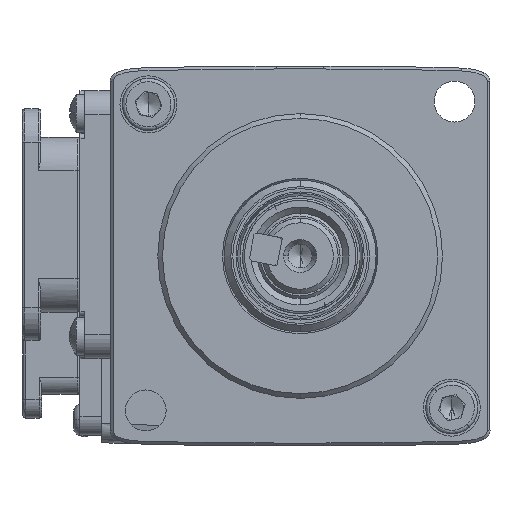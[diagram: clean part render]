
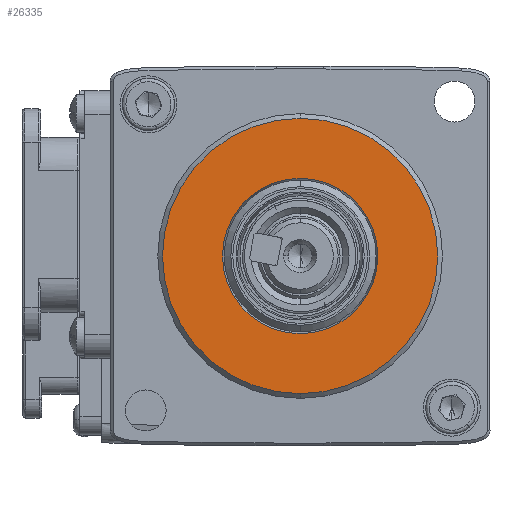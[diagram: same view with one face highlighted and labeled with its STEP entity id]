
A CAD part, left-side view. The second image highlights one B-rep face of the part: STEP entity #26335.
In plain terms, the highlighted planar face has unit normal (-1, 0, 0).
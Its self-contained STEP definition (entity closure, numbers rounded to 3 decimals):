
#1779 = DIRECTION ( 'NONE',  ( 0., 0., -1. ) ) ;
#3005 = VERTEX_POINT ( 'NONE', #60502 ) ;
#3705 = PLANE ( 'NONE',  #38028 ) ;
#4965 = EDGE_LOOP ( 'NONE', ( #18900, #72861 ) ) ;
#9912 = CIRCLE ( 'NONE', #64389, 8.182 ) ;
#10740 = CARTESIAN_POINT ( 'NONE',  ( -75.521, -7.385, 154.516 ) ) ;
#11916 = VERTEX_POINT ( 'NONE', #10740 ) ;
#15435 = EDGE_CURVE ( 'NONE', #36326, #11916, #36439, .T. ) ;
#18347 = EDGE_CURVE ( 'NONE', #11916, #36326, #77124, .T. ) ;
#18900 = ORIENTED_EDGE ( 'NONE', *, *, #39669, .F. ) ;
#21014 = CIRCLE ( 'NONE', #50598, 8.182 ) ;
#21936 = DIRECTION ( 'NONE',  ( 1., 0., 0. ) ) ;
#26335 = ADVANCED_FACE ( 'NONE', ( #38807, #77363 ), #3705, .F. ) ;
#28980 = CARTESIAN_POINT ( 'NONE',  ( -75.521, -7.385, 125.516 ) ) ;
#30574 = CARTESIAN_POINT ( 'NONE',  ( -75.521, -7.385, 140.016 ) ) ;
#32011 = CARTESIAN_POINT ( 'NONE',  ( -75.521, -7.385, 131.834 ) ) ;
#36326 = VERTEX_POINT ( 'NONE', #28980 ) ;
#36439 = CIRCLE ( 'NONE', #90972, 14.5 ) ;
#38028 = AXIS2_PLACEMENT_3D ( 'NONE', #92951, #92467, #1779 ) ;
#38807 = FACE_OUTER_BOUND ( 'NONE', #80541, .T. ) ;
#39669 = EDGE_CURVE ( 'NONE', #3005, #60232, #21014, .T. ) ;
#40646 = CARTESIAN_POINT ( 'NONE',  ( -75.521, -7.385, 140.016 ) ) ;
#41213 = AXIS2_PLACEMENT_3D ( 'NONE', #45301, #21936, #75106 ) ;
#41526 = ORIENTED_EDGE ( 'NONE', *, *, #18347, .F. ) ;
#43955 = DIRECTION ( 'NONE',  ( 0., 0., 1. ) ) ;
#45301 = CARTESIAN_POINT ( 'NONE',  ( -75.521, -7.385, 140.016 ) ) ;
#50598 = AXIS2_PLACEMENT_3D ( 'NONE', #70983, #63650, #43955 ) ;
#52527 = DIRECTION ( 'NONE',  ( -1., 0., 0. ) ) ;
#60232 = VERTEX_POINT ( 'NONE', #32011 ) ;
#60502 = CARTESIAN_POINT ( 'NONE',  ( -75.521, -7.385, 148.198 ) ) ;
#63095 = DIRECTION ( 'NONE',  ( 1., 0., 0. ) ) ;
#63650 = DIRECTION ( 'NONE',  ( -1., 0., 0. ) ) ;
#64389 = AXIS2_PLACEMENT_3D ( 'NONE', #30574, #52527, #82289 ) ;
#70983 = CARTESIAN_POINT ( 'NONE',  ( -75.521, -7.385, 140.016 ) ) ;
#72861 = ORIENTED_EDGE ( 'NONE', *, *, #77458, .F. ) ;
#75106 = DIRECTION ( 'NONE',  ( 0., 0., -1. ) ) ;
#77124 = CIRCLE ( 'NONE', #41213, 14.5 ) ;
#77363 = FACE_BOUND ( 'NONE', #4965, .T. ) ;
#77458 = EDGE_CURVE ( 'NONE', #60232, #3005, #9912, .T. ) ;
#80541 = EDGE_LOOP ( 'NONE', ( #96115, #41526 ) ) ;
#82289 = DIRECTION ( 'NONE',  ( 0., 0., 1. ) ) ;
#90972 = AXIS2_PLACEMENT_3D ( 'NONE', #40646, #63095, #92875 ) ;
#92467 = DIRECTION ( 'NONE',  ( 1., 0., 0. ) ) ;
#92875 = DIRECTION ( 'NONE',  ( 0., 0., -1. ) ) ;
#92951 = CARTESIAN_POINT ( 'NONE',  ( -75.521, -15.385, 140.016 ) ) ;
#96115 = ORIENTED_EDGE ( 'NONE', *, *, #15435, .F. ) ;
